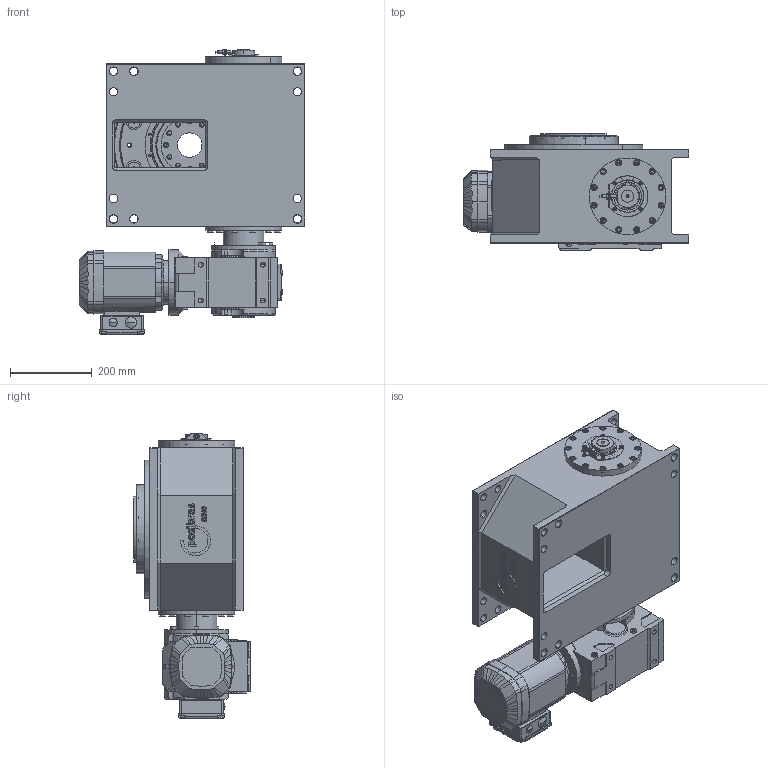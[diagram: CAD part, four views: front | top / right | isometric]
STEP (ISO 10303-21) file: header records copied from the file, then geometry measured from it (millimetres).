
FILE_DESCRIPTION (( 'STEP AP214' ), '1' );
FILE_NAME ('M340_SEW_KA57DRS80S4_D1_08.STEP', '2020-06-17T12:19:50', ( '' ), ( '' ), 'SwSTEP 2.0', 'SolidWorks 2020', '' );
FILE_SCHEMA (( 'AUTOMOTIVE_DESIGN' ));
Length unit declared in the file: millimetre
Products named in the file (1): M340_SEW_KA57DRS80S4_D1_08
Bounding box: 553 x 286 x 700.97 mm (x, y, z)
Surface area: 1588573.3 mm2 (no closed solid volume)
Topology: 0 solids, 125 shells, 1685 faces, 5098 edges, 3381 vertices
Faces by surface type: plane 796, cylinder 470, cone 216, bspline 113, torus 90
Entity records: 79471 total; most frequent: CARTESIAN_POINT 15917, DIRECTION 9532, ORIENTED_EDGE 8428, EDGE_CURVE 5037, VERTEX_POINT 3381, AXIS2_PLACEMENT_3D 3364, LINE 2804, VECTOR 2804
